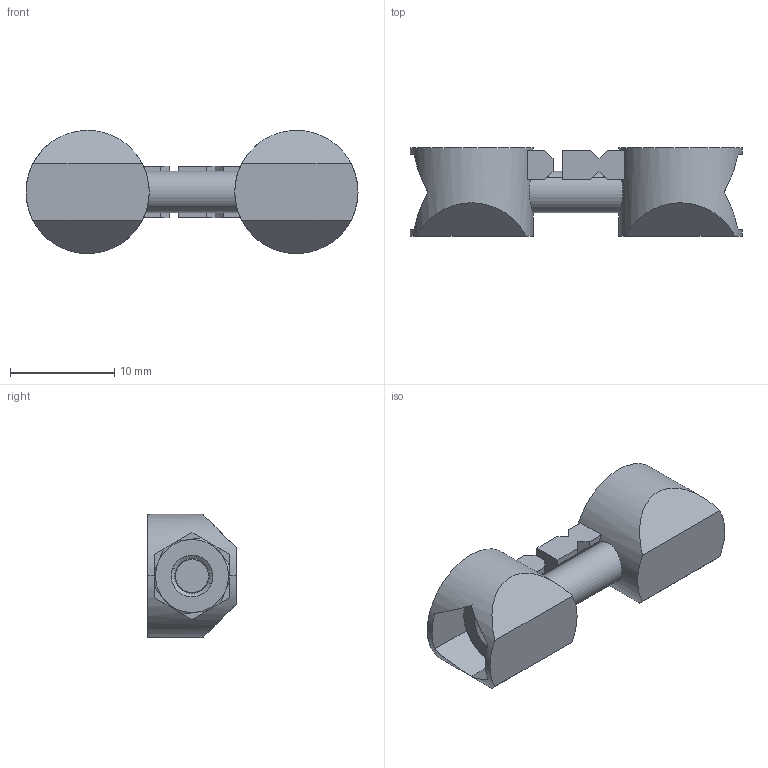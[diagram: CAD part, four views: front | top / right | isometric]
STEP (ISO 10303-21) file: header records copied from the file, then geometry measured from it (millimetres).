
FILE_DESCRIPTION (( 'STEP AP203' ), '1' );
FILE_NAME ('30032_UNISTOSTZ5.STEP', '2018-05-28T09:00:03', ( '' ), ( '' ), 'SwSTEP 2.0', 'SolidWorks 2017', '' );
FILE_SCHEMA (( 'CONFIG_CONTROL_DESIGN' ));
Length unit declared in the file: millimetre
Products named in the file (5): 30032_UNISTOSTZ5; GrundelementGD-ZN_abgebrochen; SechskantmutterM4; Zylinderkopfschraube_M4x20; GrundelementGD-ZN
Assembly tree (4 placements, depth 2):
  30032_UNISTOSTZ5
    GrundelementGD-ZN
    Zylinderkopfschraube_M4x20
    SechskantmutterM4
    GrundelementGD-ZN_abgebrochen
Bounding box: 31.8 x 8.5 x 11.8 mm (x, y, z)
Volume: 1550.2 mm3; surface area: 2109.4 mm2
Topology: 4 solids, 5 shells, 106 faces, 274 edges, 176 vertices
Faces by surface type: plane 64, cone 18, cylinder 16, bspline 8
Entity records: 4079 total; most frequent: CARTESIAN_POINT 1041, ORIENTED_EDGE 548, DIRECTION 516, EDGE_CURVE 274, AXIS2_PLACEMENT_3D 191, VERTEX_POINT 176, LINE 134, VECTOR 134
